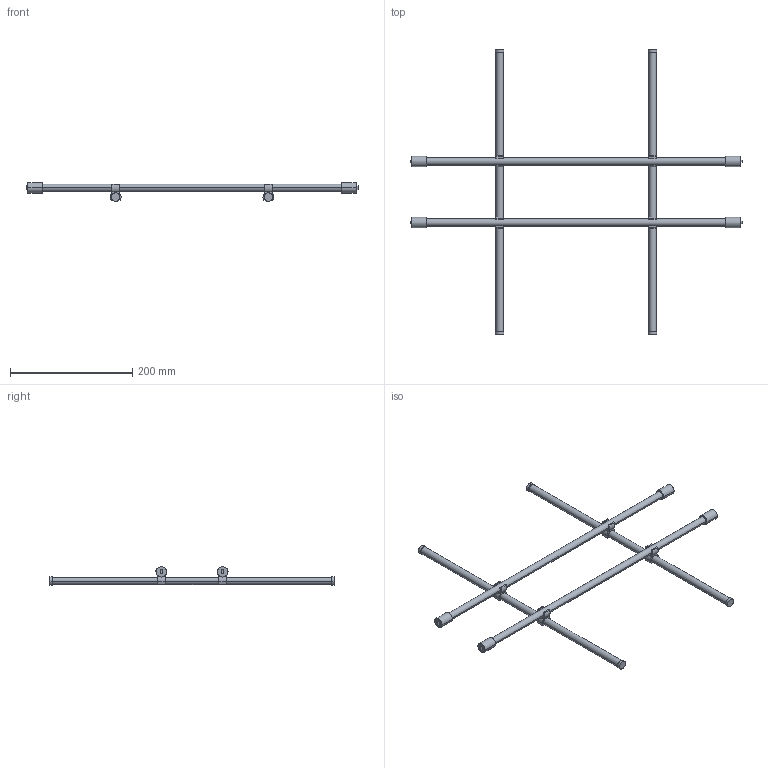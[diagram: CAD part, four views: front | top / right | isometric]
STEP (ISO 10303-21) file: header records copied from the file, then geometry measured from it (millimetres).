
FILE_DESCRIPTION (( 'STEP AP214' ), '1' );
FILE_NAME ('Magic-Classic_NL-500-KAB 600.step', '2010-09-16T12:49:20', ( 'grass' ), ( '' ), 'SwSTEP 2.0', 'SolidWorks 2010', '' );
FILE_SCHEMA (( 'AUTOMOTIVE_DESIGN' ));
Length unit declared in the file: millimetre
Products named in the file (1): Magic-Classic_NL-500-KAB 600
Bounding box: 543 x 465 x 30.45 mm (x, y, z)
Volume: 247201.9 mm3; surface area: 82083.3 mm2
Topology: 1 solids, 1 shells, 140 faces, 384 edges, 256 vertices
Faces by surface type: plane 76, cylinder 64
Entity records: 4546 total; most frequent: DIRECTION 826, CARTESIAN_POINT 781, ORIENTED_EDGE 768, EDGE_CURVE 384, AXIS2_PLACEMENT_3D 301, VERTEX_POINT 256, LINE 224, VECTOR 224
